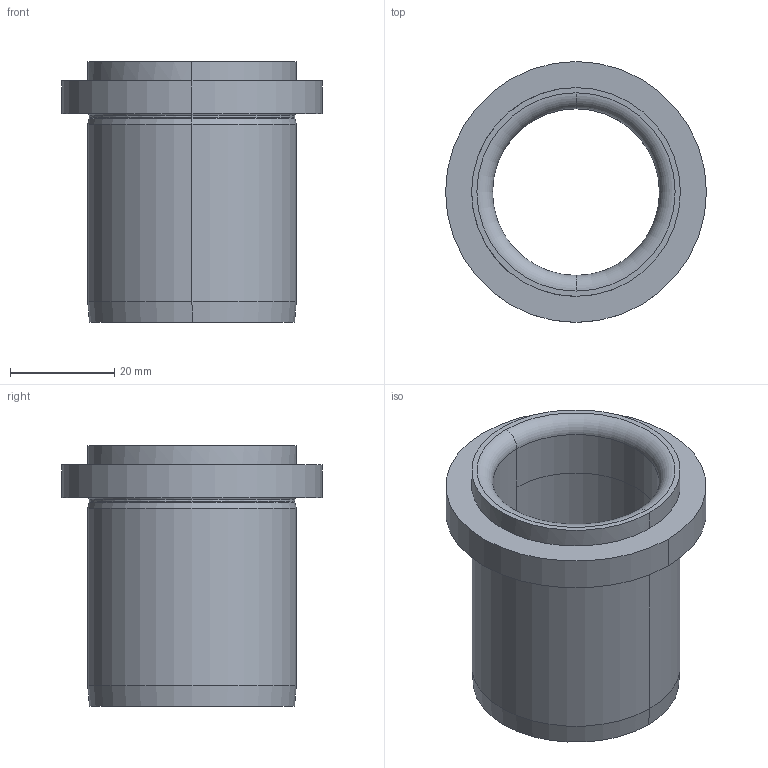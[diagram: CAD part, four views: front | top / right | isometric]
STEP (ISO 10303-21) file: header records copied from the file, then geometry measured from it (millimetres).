
FILE_DESCRIPTION(('CATIA V5 STEP'),'2;1');
FILE_NAME('\\GSBFILE\data\URETIM\3D DATALAR\Step Dosyaları\Kılavuz Elemanları\G211-02-032-050.stp','2020-07-07T05:34:58+00:00',('none'),('none'),'CATIA Version 5-6 Release 2019 SP3','CATIA V5 STEP AP203 v1','none');
FILE_SCHEMA(('CONFIG_CONTROL_DESIGN'));
Length unit declared in the file: millimetre
Products named in the file (1): Part1
Bounding box: 50 x 50 x 50 mm (x, y, z)
Volume: 26682 mm3; surface area: 13646.3 mm2
Topology: 1 solids, 1 shells, 30 faces, 63 edges, 37 vertices
Faces by surface type: cylinder 12, torus 8, cone 6, plane 4
Entity records: 838 total; most frequent: CARTESIAN_POINT 197, ORIENTED_EDGE 126, DIRECTION 103, EDGE_CURVE 63, AXIS2_PLACEMENT_3D 62, CIRCLE 39, VERTEX_POINT 37, EDGE_LOOP 34
